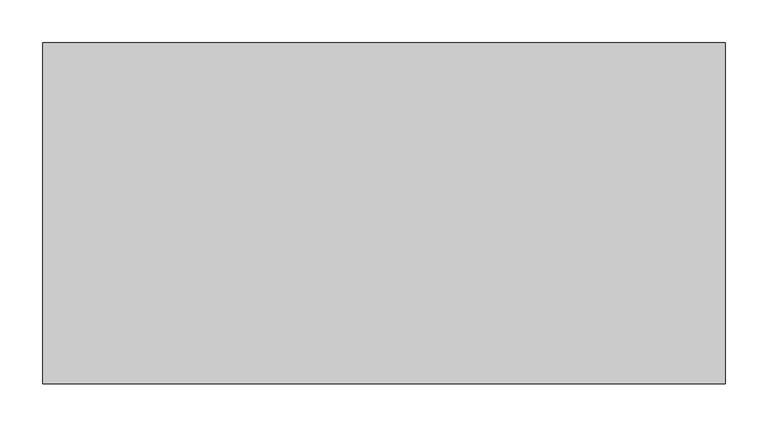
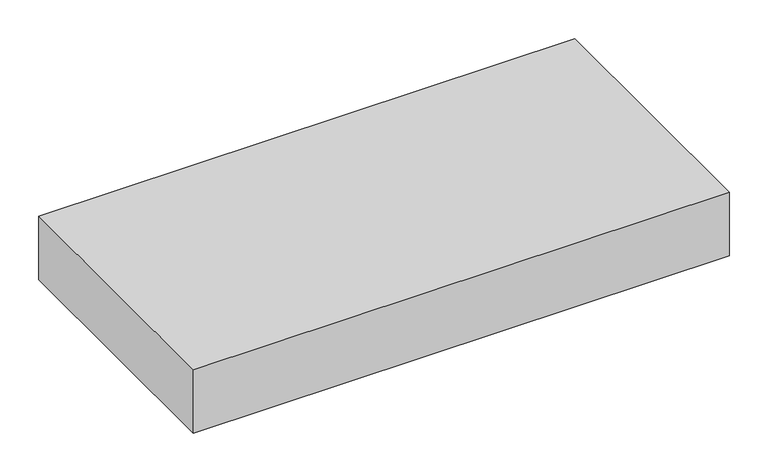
"""IFC4 building model written with IfcOpenShell, lengths in millimetres: proxy geometry, 機械基礎 : 機械基礎(電気)."""

from ifc_helpers import new_model, si_unit, origin, origin_with_axes, place, context, project, spatial, polyline, outline, extrude, source, transform, mapped, element, save


def specialty_equipment_491e8242(model_context):
    return source(origin(), model_context, "Body", "SweptSolid", [
        extrude(outline(polyline([(400.0, -200.0), (-400.0, -200.0), (-400.0, 200.0), (400.0, 200.0), (400.0, -200.0)])), origin_with_axes(), (0.0, 0.0, 1.0), 100.0),
    ])


if __name__ == "__main__":
    model = new_model("IFC4")
    model_context = context("Model", 3, world=origin())
    ifc_project = project(units=[si_unit("LENGTHUNIT", "METRE", prefix="MILLI")], contexts=[model_context])
    site = spatial("IfcSite", under=ifc_project)
    building = spatial("IfcBuilding", under=site)
    placement = place(None, origin())
    specialty_equipment_shape = specialty_equipment_491e8242(model_context)
    element("IfcBuildingElementProxy", 1, Name="機械基礎 : 機械基礎(電気)", ObjectType="機械基礎 : 機械基礎(電気)", at=placement, inside=building, context=model_context, shape_type="MappedRepresentation", body=[
        mapped(specialty_equipment_shape, transform((0.0, 0.0, 0.0), x_axis=(1.0, 0.0, 0.0), y_axis=(0.0, 1.0, 0.0), z_axis=(0.0, 0.0, 1.0))),
    ])
    save(model, "model.ifc")
